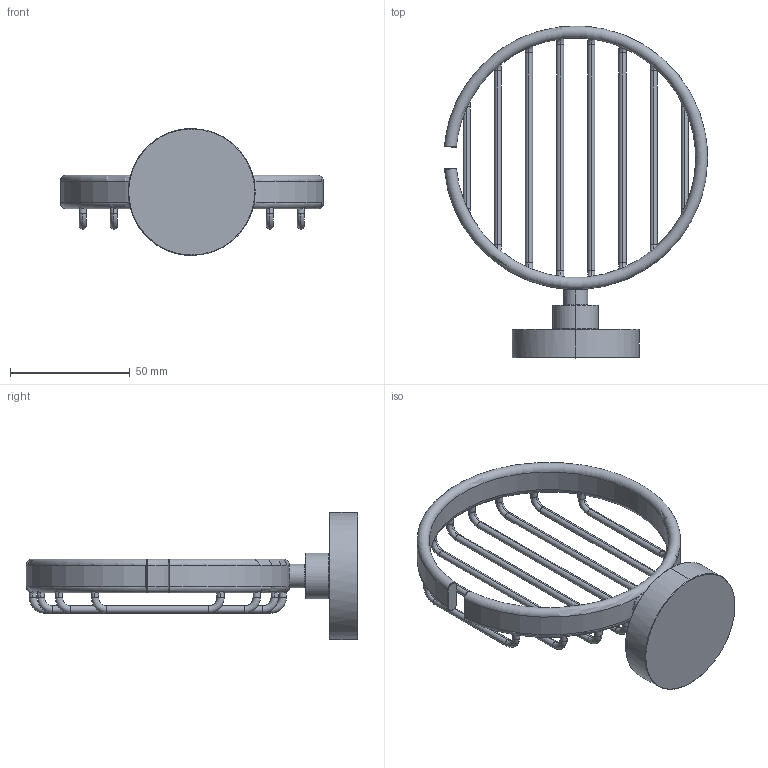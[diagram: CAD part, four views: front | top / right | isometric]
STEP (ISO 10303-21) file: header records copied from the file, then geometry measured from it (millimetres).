
FILE_DESCRIPTION(('THIS FILE CONTAINS SOME STEP INSTANCES'),'1');
FILE_NAME('HAR 017-light.stp','2015-10-26T15:47:15',('UNDEFINED'),('UNDEFINED'),'T-FLEX CAD STEP converter','T-FLEX CAD','');
FILE_SCHEMA(('CONFIG_CONTROL_DESIGN'));
Length unit declared in the file: metre
Products named in the file (1): har_017
Bounding box: 109.78 x 138.45 x 53 mm (x, y, z)
Volume: 55876 mm3; surface area: 24988 mm2
Topology: 1 solids, 1 shells, 123 faces, 282 edges, 167 vertices
Faces by surface type: cylinder 57, torus 38, cone 10, plane 9, bspline 9
Entity records: 7437 total; most frequent: CARTESIAN_POINT 5191, ORIENTED_EDGE 564, DIRECTION 338, EDGE_CURVE 282, VERTEX_POINT 167, EDGE_LOOP 137, AXIS2_PLACEMENT_3D 133, ADVANCED_FACE 119
